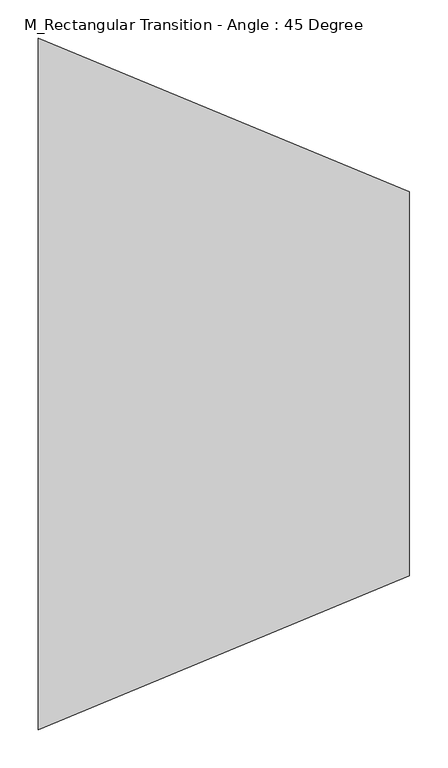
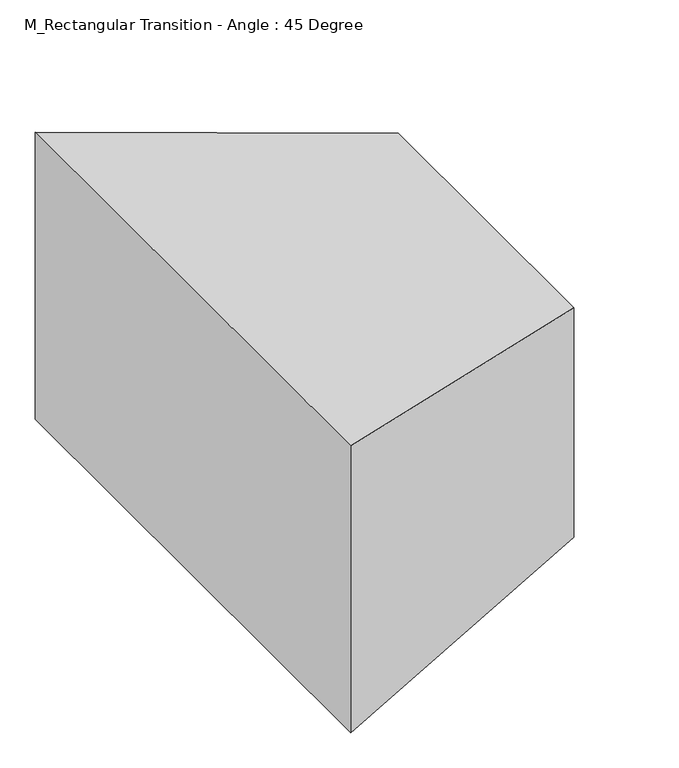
"""IFC4 building model written with IfcOpenShell, lengths in millimetres: duct fitting geometry, M_Rectangular Transition - Angle : 45 Degree."""

from ifc_helpers import new_model, si_unit, origin, place, context, project, spatial, faceted_brep, source, transform, mapped, element, save


def m_rectangular_transition_angle_45_degree_58188504(model_context):
    return source(origin(), model_context, "Body", "Brep", [
        faceted_brep([(482.8427125, -250.0, 200.0), (482.8427125, -250.0, -200.0), (482.8427125, 250.0, -200.0), (482.8427125, 250.0, 200.0), (0.0, -450.0, 250.0), (0.0, 450.0, 250.0), (0.0, 450.0, -250.0), (0.0, -450.0, -250.0)], [[[0, 1, 2, 3]], [[4, 5, 6, 7]], [[4, 7, 1, 0]], [[7, 6, 2, 1]], [[6, 5, 3, 2]], [[5, 4, 0, 3]]]),
        faceted_brep([(482.8427125, -250.0, 200.0), (482.8427125, -250.0, -200.0), (482.8427125, 250.0, -200.0), (482.8427125, 250.0, 200.0), (0.0, -450.0, 250.0), (0.0, 450.0, 250.0), (0.0, 450.0, -250.0), (0.0, -450.0, -250.0)], [[[0, 1, 2, 3]], [[4, 5, 6, 7]], [[4, 7, 1, 0]], [[7, 6, 2, 1]], [[6, 5, 3, 2]], [[5, 4, 0, 3]]]),
        faceted_brep([(482.8427125, -250.0, 200.0), (482.8427125, -250.0, -200.0), (482.8427125, 250.0, -200.0), (482.8427125, 250.0, 200.0), (0.0, -450.0, 250.0), (0.0, 450.0, 250.0), (0.0, 450.0, -250.0), (0.0, -450.0, -250.0)], [[[0, 1, 2, 3]], [[4, 5, 6, 7]], [[4, 7, 1, 0]], [[7, 6, 2, 1]], [[6, 5, 3, 2]], [[5, 4, 0, 3]]]),
    ])


if __name__ == "__main__":
    model = new_model("IFC4")
    model_context = context("Model", 3, world=origin())
    ifc_project = project(units=[si_unit("LENGTHUNIT", "METRE", prefix="MILLI")], contexts=[model_context])
    site = spatial("IfcSite", under=ifc_project)
    building = spatial("IfcBuilding", under=site)
    placement = place(None, origin())
    m_rectangular_transition_angle_45_degree_shape = m_rectangular_transition_angle_45_degree_58188504(model_context)
    element("IfcDuctFitting", 1, ObjectType="M_Rectangular Transition - Angle : 45 Degree", at=placement, inside=building, context=model_context, shape_type="MappedRepresentation", body=[
        mapped(m_rectangular_transition_angle_45_degree_shape, transform((0.0, 0.0, 0.0), x_axis=(1.0, 0.0, 0.0), y_axis=(0.0, 1.0, 0.0), z_axis=(0.0, 0.0, 1.0))),
    ])
    save(model, "model.ifc")
